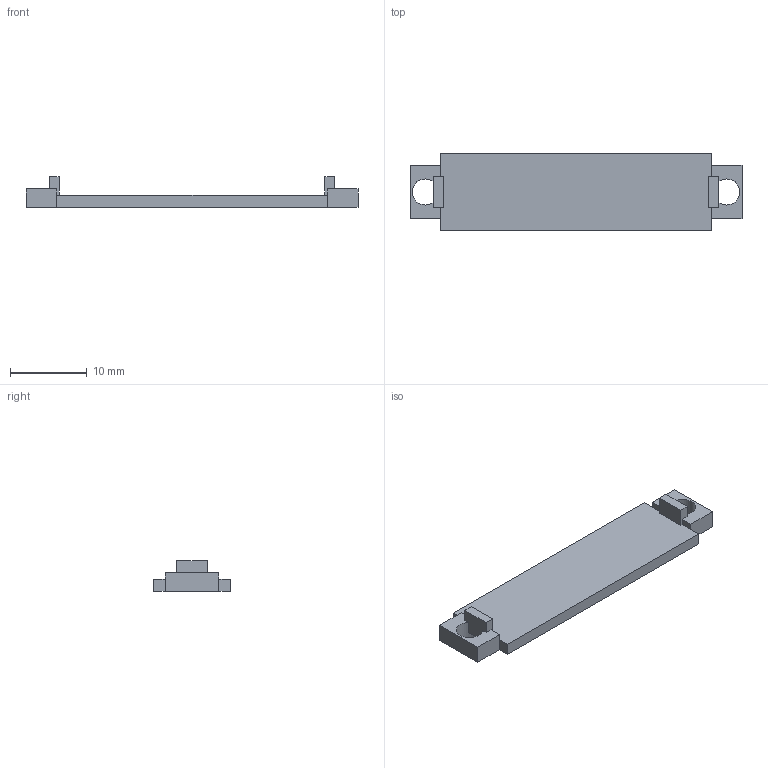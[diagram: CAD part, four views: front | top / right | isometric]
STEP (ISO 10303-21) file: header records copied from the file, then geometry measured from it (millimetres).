
FILE_DESCRIPTION(('FreeCAD Model'),'2;1');
FILE_NAME('Open CASCADE Shape Model','2026-11-20T08:25:38',('FreeCAD'),( 'FreeCAD'),'Open CASCADE STEP processor 7.8','FreeCAD','Unknown');
FILE_SCHEMA(('AUTOMOTIVE_DESIGN { 1 0 10303 214 1 1 1 1 }'));
Length unit declared in the file: millimetre
Products named in the file (1): Open CASCADE STEP translator 7.8 46
Bounding box: 43.2 x 10 x 4 mm (x, y, z)
Volume: 674.4 mm3; surface area: 1073.3 mm2
Topology: 1 solids, 1 shells, 34 faces, 98 edges, 64 vertices
Faces by surface type: plane 32, cylinder 2
Full cylindrical faces by diameter (mm): 3.4 x2
Entity records: 1116 total; most frequent: CARTESIAN_POINT 197, ORIENTED_EDGE 196, DIRECTION 176, EDGE_CURVE 98, LINE 90, VECTOR 90, VERTEX_POINT 64, AXIS2_PLACEMENT_3D 43
